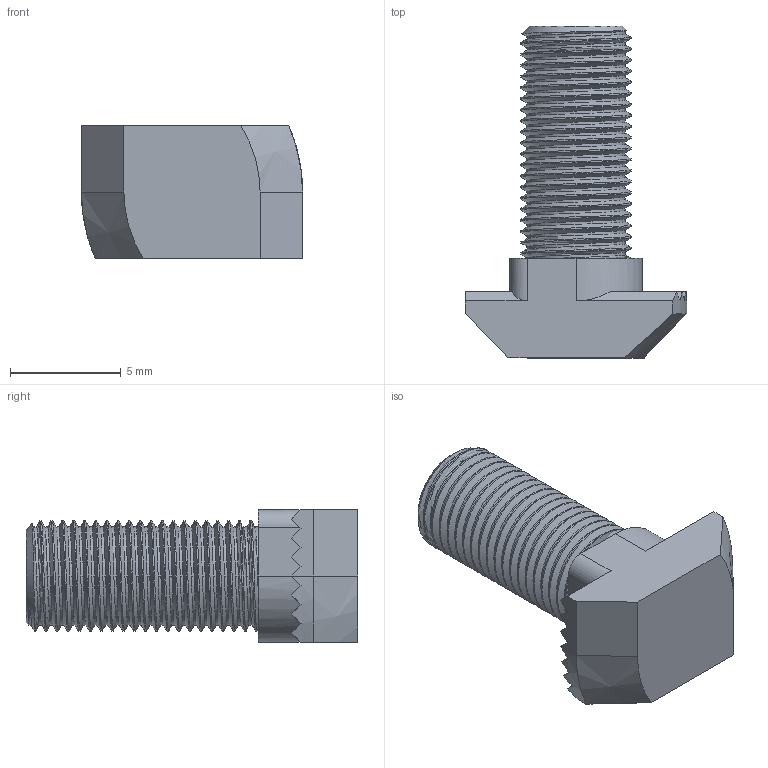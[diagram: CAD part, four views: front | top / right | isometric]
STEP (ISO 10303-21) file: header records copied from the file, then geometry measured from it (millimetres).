
FILE_DESCRIPTION(/* description */ ('STEP AP214'),/* implementation_level */ '2;1');
FILE_NAME(/* name */ 'Drop In Bolt - TV-Slot - 20 Series - M5 - 12mm.step',/* time_stamp */ '2025-09-05T04:28:38+03:00',/* author */ (''),/* organization */ (''),/* preprocessor_version */ 'ST-DEVELOPER v20.1',/* originating_system */ 'Autodesk Translation Framework v14.10.0.0',/* authorisation */ '');
FILE_SCHEMA (('AUTOMOTIVE_DESIGN { 1 0 10303 214 3 1 1 }'));
Length unit declared in the file: millimetre
Products named in the file (1): Drop In Bolt - TV-Slot - 20 Series - M5 - 12mm
Bounding box: 10 x 15 x 6 mm (x, y, z)
Volume: 375.6 mm3; surface area: 476.3 mm2
Topology: 1 solids, 1 shells, 100 faces, 281 edges, 185 vertices
Faces by surface type: cylinder 49, plane 46, cone 3, bspline 2
Full cylindrical faces by diameter (mm): 4.459 x20, 5 x19
Entity records: 10882 total; most frequent: CARTESIAN_POINT 8428, ORIENTED_EDGE 562, DIRECTION 435, EDGE_CURVE 281, VERTEX_POINT 185, AXIS2_PLACEMENT_3D 147, LINE 141, VECTOR 141
